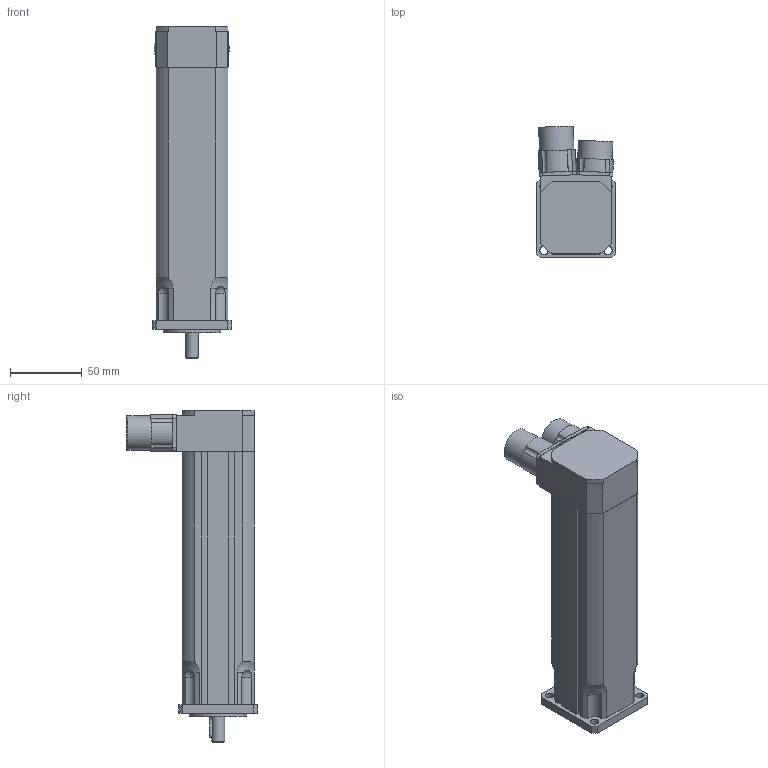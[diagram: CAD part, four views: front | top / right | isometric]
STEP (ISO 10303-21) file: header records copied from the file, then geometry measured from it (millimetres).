
FILE_DESCRIPTION(/* description */ ('Alibre Inc.'),/* implementation_level */ '2;1');
FILE_NAME(/* name */ 'export0',/* time_stamp */ '2011-07-29T09:17:23+02:00',/* author */ (''),/* organization */ (''),/* preprocessor_version */ 'ST-DEVELOPER v12',/* originating_system */ 'Alibre',/* authorisation */ '');
FILE_SCHEMA (('AUTOMOTIVE_DESIGN'));
Length unit declared in the file: millimetre
Products named in the file (6): ID_1; ID_2
Bounding box: 55 x 91.45 x 231 mm (x, y, z)
Volume: 514603.4 mm3; surface area: 63793 mm2
Topology: 5 solids, 5 shells, 174 faces, 446 edges, 289 vertices
Faces by surface type: plane 90, cylinder 67, bspline 8, sphere 4, torus 4, cone 1
Full cylindrical faces by diameter (mm): 2.7 x8, 9 x1, 20 x2, 24 x2, 26 x1, 40 x1
Entity records: 5834 total; most frequent: CARTESIAN_POINT 1521, ORIENTED_EDGE 840, DIRECTION 837, EDGE_CURVE 420, AXIS2_PLACEMENT_3D 359, VERTEX_POINT 285, EDGE_LOOP 231, FACE_BOUND 231
